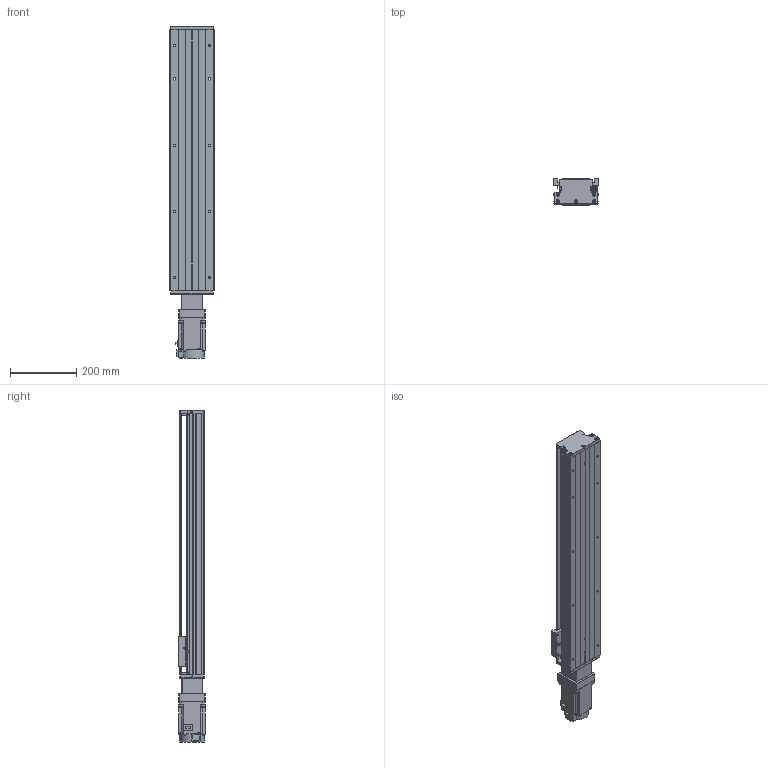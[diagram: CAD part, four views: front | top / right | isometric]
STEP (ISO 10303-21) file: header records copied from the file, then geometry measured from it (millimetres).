
FILE_DESCRIPTION (( 'STEP AP203' ), '1' );
FILE_NAME ('KTH130-650-BC-M75-C4.step', '2023-06-30T04:18:23', ( '微软用户' ), ( '微软中国' ), 'SwSTEP 2.0', 'SolidWorks 2020', '' );
FILE_SCHEMA (( 'CONFIG_CONTROL_DESIGN' ));
Length unit declared in the file: millimetre
Products named in the file (19): GB1155-6X6; GBT77-2000 M3×3; KTH130-650-BC-M75-C4; GBT70.1 M5℅16; す晦芛蹟隊 M3℅5; GBT 70.2-M3¡Á5_M3¡Á6; GBT 70.3-M3℅8; GTH14-001_650; CTHA60-017; CTHA86-006-1_M75; KTH130-002_KTH130-002; EE_SX911P_R; CTHA86-013; KTH130-004; CTHA60-016; CTHA86-027-1; KTH130-005; GBT 70.1-M3℅5; hg-kn73j_-s100
Assembly tree (52 placements, depth 2):
  KTH130-650-BC-M75-C4
    GTH14-001_650
    KTH130-002_KTH130-002
    KTH130-004
    KTH130-005
    GB1155-6X6  x2
    GBT70.1 M5℅16  x10
    GBT 70.2-M3¡Á5_M3¡Á6  x4
    CTHA60-017  x3
    EE_SX911P_R  x3
    CTHA60-016  x2
    GBT 70.1-M3℅5  x6
    GBT77-2000 M3×3  x6
    す晦芛蹟隊 M3℅5  x2
    GBT 70.3-M3℅8  x6
    CTHA86-006-1_M75
    CTHA86-013
    CTHA86-027-1
    hg-kn73j_-s100
Bounding box: 135 x 80.44 x 1003.2 mm (x, y, z)
Volume: 5415423.1 mm3; surface area: 795921.6 mm2
Topology: 55 solids, 55 shells, 2260 faces, 5432 edges, 3383 vertices
Faces by surface type: plane 1242, cylinder 622, cone 280, torus 104, sphere 12
Entity records: 40154 total; most frequent: CARTESIAN_POINT 6631, DIRECTION 6611, ORIENTED_EDGE 6148, EDGE_CURVE 3074, AXIS2_PLACEMENT_3D 2299, LINE 2013, VECTOR 2013, VERTEX_POINT 1955
